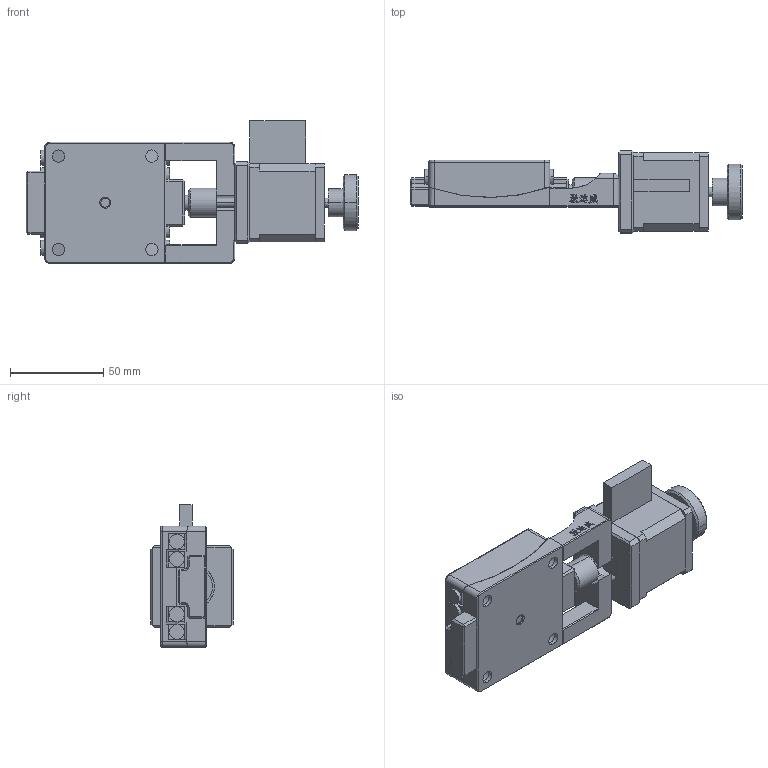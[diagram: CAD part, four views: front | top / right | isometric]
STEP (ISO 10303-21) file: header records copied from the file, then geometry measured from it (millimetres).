
FILE_DESCRIPTION (( 'STEP AP203' ), '1' );
FILE_NAME ('PJ110-15.STEP', '2025-09-10T03:21:25', ( '' ), ( '' ), 'SwSTEP 2.0', 'SolidWorks 2023', '' );
FILE_SCHEMA (( 'CONFIG_CONTROL_DESIGN' ));
Length unit declared in the file: millimetre
Products named in the file (12): SJ110-10 ______________.STEP; ZJ110-10 __________________.STEP_2; ZJ110-10 __________________.STEP; YK42____.STEP_3; YK42____.STEP; YK42____.STEP_2; YK42____.STEP_4; ZJ110-10____.STEP; ZJ110-10 __________________ .STEP; PJ110-15
Assembly tree (14 placements, depth 3):
  PJ110-15
    ZJ110-10 __________________ .STEP
    ZJ110-10 __________________.STEP
      ZJ110-10 __________________.STEP
    SJ110-10 ______________.STEP
    YK42____.STEP
      YK42____.STEP_4
      YK42____.STEP_3
      YK42____.STEP_2
      YK42____.STEP
    ZJ110-10____.STEP  x4
    ZJ110-10 __________________.STEP_2
Bounding box: 178 x 44 x 76.5 mm (x, y, z)
Volume: 218140.6 mm3; surface area: 69716.7 mm2
Topology: 12 solids, 12 shells, 534 faces, 1333 edges, 849 vertices
Faces by surface type: plane 304, cylinder 125, bspline 87, cone 18
Entity records: 20290 total; most frequent: CARTESIAN_POINT 7437, ORIENTED_EDGE 2502, DIRECTION 2113, EDGE_CURVE 1251, LINE 845, VECTOR 845, VERTEX_POINT 801, AXIS2_PLACEMENT_3D 634
